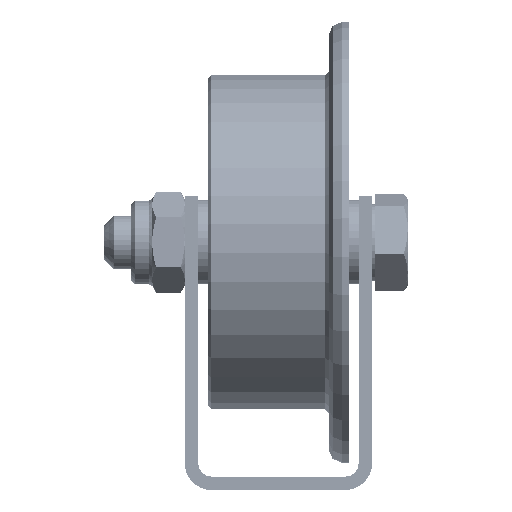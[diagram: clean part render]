
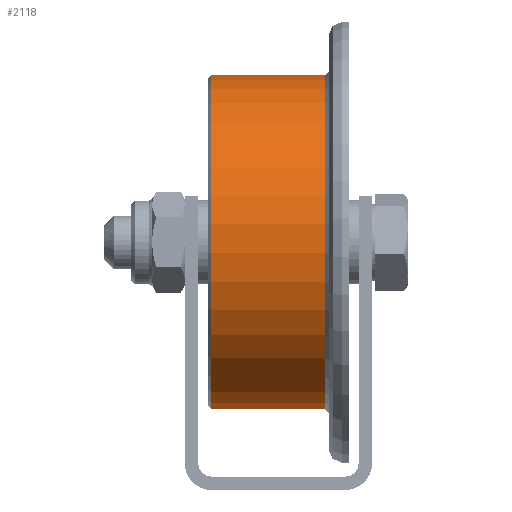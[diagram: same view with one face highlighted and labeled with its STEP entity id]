
A CAD part, front view. The second image highlights one B-rep face of the part: STEP entity #2118.
In plain terms, the highlighted cylindrical face has radius 25 mm (diameter 50 mm), a full revolution.
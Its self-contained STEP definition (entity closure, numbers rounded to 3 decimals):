
#2118 = ADVANCED_FACE( '', ( #4824, #4825 ), #4826, .T. );
#4824 = FACE_OUTER_BOUND( '', #8126, .T. );
#4825 = FACE_OUTER_BOUND( '', #8127, .T. );
#4826 = CYLINDRICAL_SURFACE( '', #8128, 25. );
#8126 = EDGE_LOOP( '', ( #12186 ) );
#8127 = EDGE_LOOP( '', ( #12187 ) );
#8128 = AXIS2_PLACEMENT_3D( '', #12188, #12189, #12190 );
#12186 = ORIENTED_EDGE( '', *, *, #14819, .T. );
#12187 = ORIENTED_EDGE( '', *, *, #15557, .T. );
#12188 = CARTESIAN_POINT( '', ( 0., -10.5, 0. ) );
#12189 = DIRECTION( '', ( 0., -1., 0. ) );
#12190 = DIRECTION( '', ( 0., 0., 1. ) );
#14819 = EDGE_CURVE( '', #16772, #16772, #16773, .T. );
#15557 = EDGE_CURVE( '', #18089, #18089, #18090, .F. );
#16772 = VERTEX_POINT( '', #19792 );
#16773 = CIRCLE( '', #19793, 25. );
#18089 = VERTEX_POINT( '', #21387 );
#18090 = CIRCLE( '', #21388, 25. );
#19792 = CARTESIAN_POINT( '', ( 0., -7., 25. ) );
#19793 = AXIS2_PLACEMENT_3D( '', #23412, #23413, #23414 );
#21387 = CARTESIAN_POINT( '', ( 0., 10., 25. ) );
#21388 = AXIS2_PLACEMENT_3D( '', #24998, #24999, #25000 );
#23412 = CARTESIAN_POINT( '', ( 0., -7., 0. ) );
#23413 = DIRECTION( '', ( 0., 1., 0. ) );
#23414 = DIRECTION( '', ( 0., 0., 1. ) );
#24998 = CARTESIAN_POINT( '', ( 0., 10., 0. ) );
#24999 = DIRECTION( '', ( 0., 1., 0. ) );
#25000 = DIRECTION( '', ( 0., 0., 1. ) );
